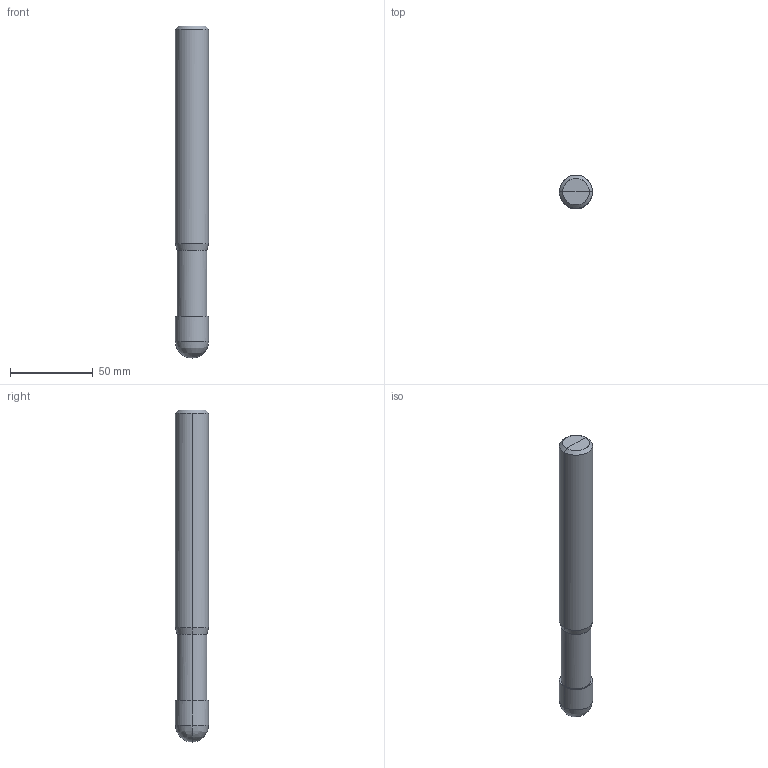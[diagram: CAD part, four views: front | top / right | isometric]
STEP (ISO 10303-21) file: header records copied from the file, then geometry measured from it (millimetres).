
FILE_DESCRIPTION(/* description */ (''),/* implementation_level */ '2;1');
FILE_NAME(/*name*/ '2142-20',/*time_stamp*/'2021-4-22T13:11:23',/*author*/ ('ISBE GmbH'),/*organization*/ ('ISBE GmbH'),/*preprocessor_version*/ 'STEP IO v1.0',/*originating_system*/ '',/*authorisation*/ '');
FILE_SCHEMA (('AUTOMOTIVE_DESIGN'));
Length unit declared in the file: millimetre
Products named in the file (1): Document
Bounding box: 20 x 20 x 200 mm (x, y, z)
Surface area: 13133.6 mm2 (no closed solid volume)
Topology: 0 solids, 18 shells, 18 faces, 74 edges, 68 vertices
Faces by surface type: bspline 18
Entity records: 823 total; most frequent: CARTESIAN_POINT 498, VERTEX_POINT 64, EDGE_CURVE 64, ORIENTED_EDGE 64, EDGE_LOOP 18, FACE_OUTER_BOUND 18, ADVANCED_FACE 18, DIRECTION 16
